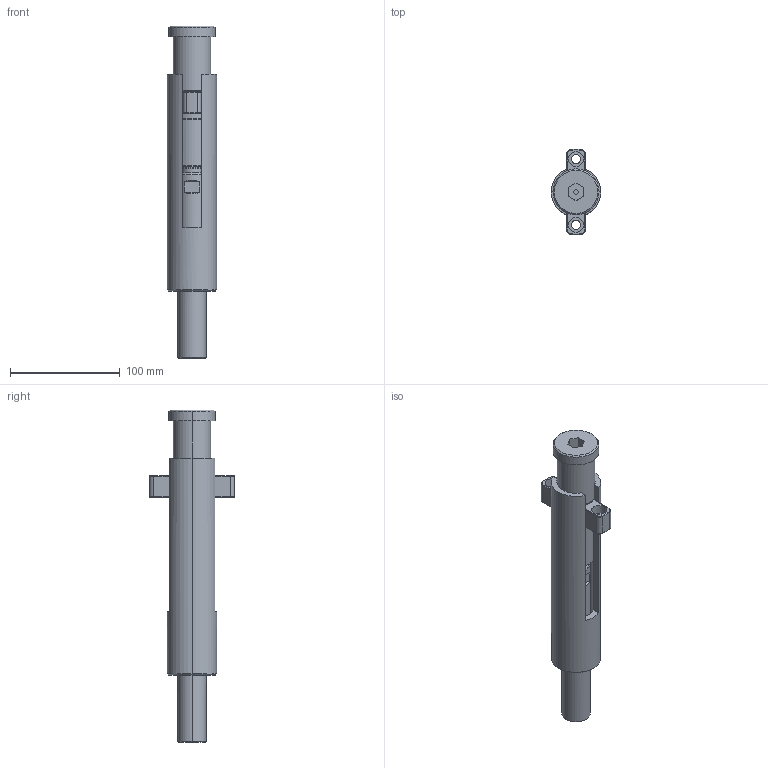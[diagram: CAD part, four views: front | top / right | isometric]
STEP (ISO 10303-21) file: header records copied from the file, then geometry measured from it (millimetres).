
FILE_DESCRIPTION (( 'STEP AP203' ), '1' );
FILE_NAME ('DKL4521.STEP', '2013-08-26T11:26:00', ( '' ), ( '' ), 'SwSTEP 2.0', 'SolidWorks 2013', '' );
FILE_SCHEMA (( 'CONFIG_CONTROL_DESIGN' ));
Length unit declared in the file: millimetre
Products named in the file (9): DKL4081; DKL4072; DKL4011; DKL4031; DKL4521; DKL4062; DKL4051; DKL4021; DKL4041
Assembly tree (11 placements, depth 2):
  DKL4521
    DKL4031
    DKL4062  x4
    DKL4051
    DKL4021
    DKL4041
    DKL4081
    DKL4072
    DKL4011
Bounding box: 45 x 77.93 x 303 mm (x, y, z)
Volume: 320853.8 mm3; surface area: 100070.5 mm2
Topology: 11 solids, 11 shells, 469 faces, 1103 edges, 666 vertices
Faces by surface type: plane 156, cylinder 140, cone 117, torus 54, bspline 2
Entity records: 15836 total; most frequent: CARTESIAN_POINT 5640, DIRECTION 2083, ORIENTED_EDGE 1822, EDGE_CURVE 911, AXIS2_PLACEMENT_3D 842, VERTEX_POINT 555, CIRCLE 439, EDGE_LOOP 434
